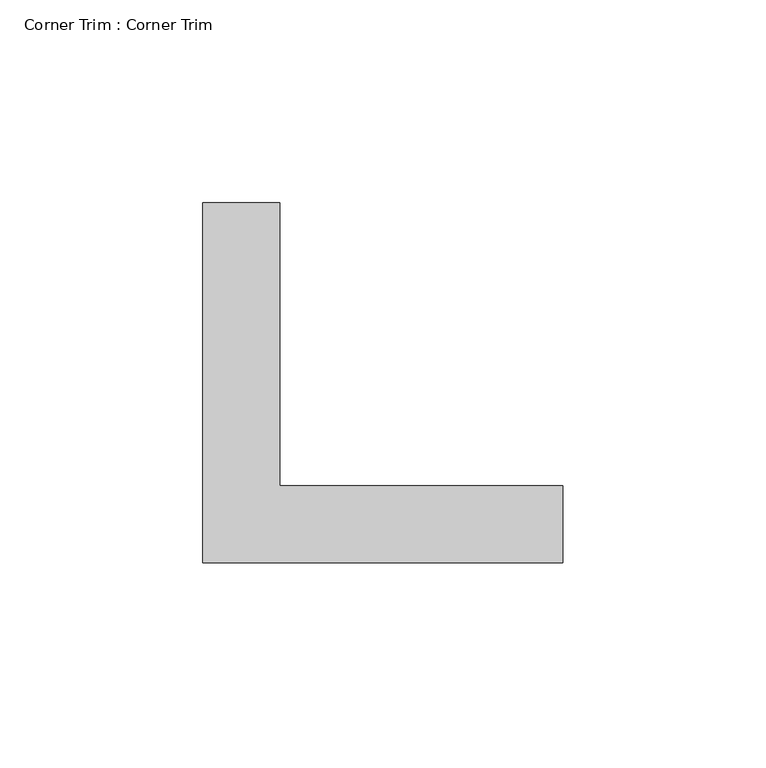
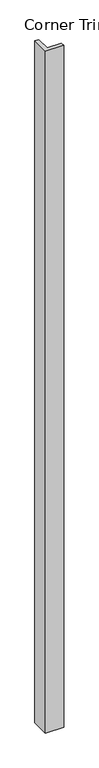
"""IFC4 building model written with IfcOpenShell, lengths in millimetres: proxy geometry, Corner Trim : Corner Trim."""

from ifc_helpers import new_model, si_unit, origin, origin_with_axes, place, context, project, spatial, polyline, outline, extrude, source, transform, mapped, element, save


def corner_trim_corner_trim_535f8f48(model_context):
    return source(origin(), model_context, "Body", "SweptSolid", [
        extrude(outline(polyline([(0.0, 0.0), (0.0, 88.9), (19.05, 88.9), (19.05, 19.05), (88.9, 19.05), (88.9, 0.0), (0.0, 0.0)])), origin_with_axes(), (0.0, 0.0, 1.0), 3505.2),
    ])


if __name__ == "__main__":
    model = new_model("IFC4")
    model_context = context("Model", 3, world=origin())
    ifc_project = project(units=[si_unit("LENGTHUNIT", "METRE", prefix="MILLI")], contexts=[model_context])
    site = spatial("IfcSite", under=ifc_project)
    building = spatial("IfcBuilding", under=site)
    placement = place(None, origin())
    corner_trim_corner_trim_shape = corner_trim_corner_trim_535f8f48(model_context)
    element("IfcBuildingElementProxy", 1, Name="Corner Trim : Corner Trim", ObjectType="Corner Trim : Corner Trim", at=placement, inside=building, context=model_context, shape_type="MappedRepresentation", body=[
        mapped(corner_trim_corner_trim_shape, transform((0.0, 0.0, 0.0), x_axis=(1.0, 0.0, 0.0), y_axis=(0.0, 1.0, 0.0), z_axis=(0.0, 0.0, 1.0))),
    ])
    save(model, "model.ifc")
